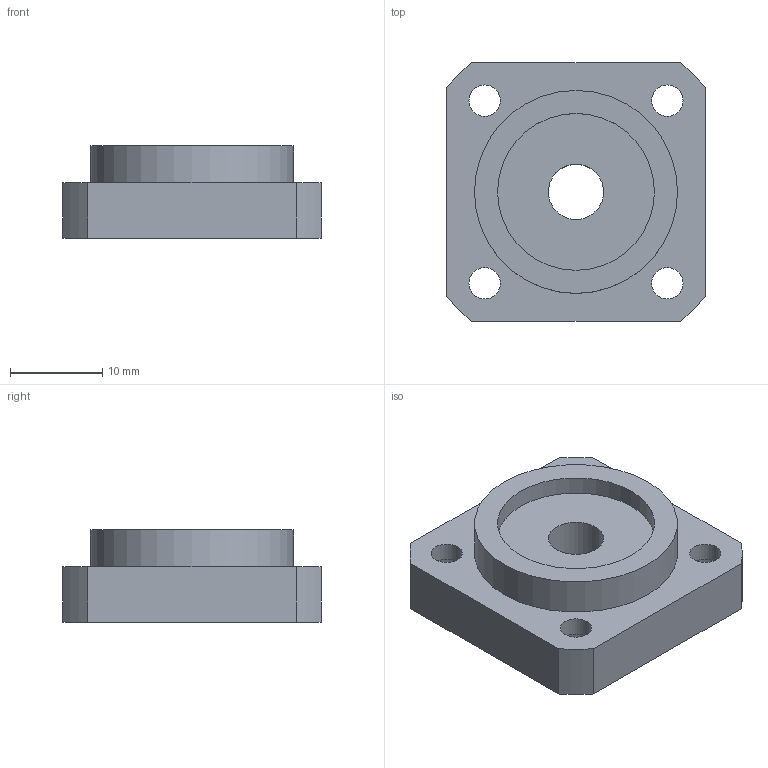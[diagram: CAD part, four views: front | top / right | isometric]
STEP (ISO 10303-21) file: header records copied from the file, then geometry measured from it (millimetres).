
FILE_DESCRIPTION(/* description */ (''),/* implementation_level */ '2;1');
FILE_NAME(/* name */ 'C:\Users\tenki620635\Desktop\官網\圖面\軸承座\3D\setp檔\FF06.stp',/* time_stamp */ '2020-11-23T14:54:48+08:00',/* author */ ('tenki620635'),/* organization */ (''),/* preprocessor_version */ 'ST-DEVELOPER v15.2',/* originating_system */ 'Autodesk Inventor 2014',/* authorisation */ '');
FILE_SCHEMA (('AUTOMOTIVE_DESIGN { 1 0 10303 214 3 1 1 }'));
Length unit declared in the file: millimetre
Products named in the file (1): FF06
Bounding box: 28 x 28 x 10 mm (x, y, z)
Volume: 4462.9 mm3; surface area: 3061.8 mm2
Topology: 1 solids, 1 shells, 29 faces, 60 edges, 40 vertices
Faces by surface type: cylinder 16, plane 13
Full cylindrical faces by diameter (mm): 3.4 x4, 6 x1, 6.5 x4, 17 x2, 22 x1
Entity records: 767 total; most frequent: DIRECTION 140, CARTESIAN_POINT 118, ORIENTED_EDGE 96, AXIS2_PLACEMENT_3D 62, EDGE_LOOP 58, EDGE_CURVE 48, VERTEX_POINT 40, FACE_BOUND 34
